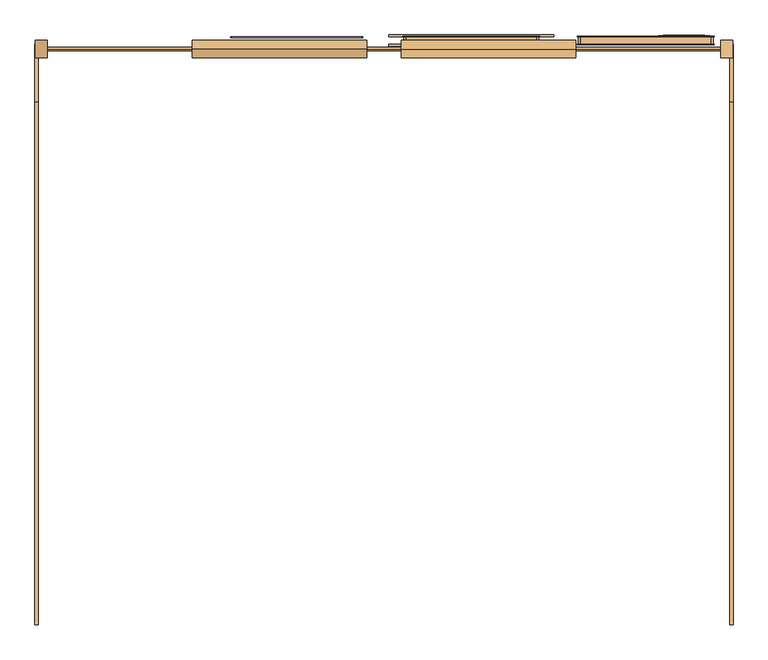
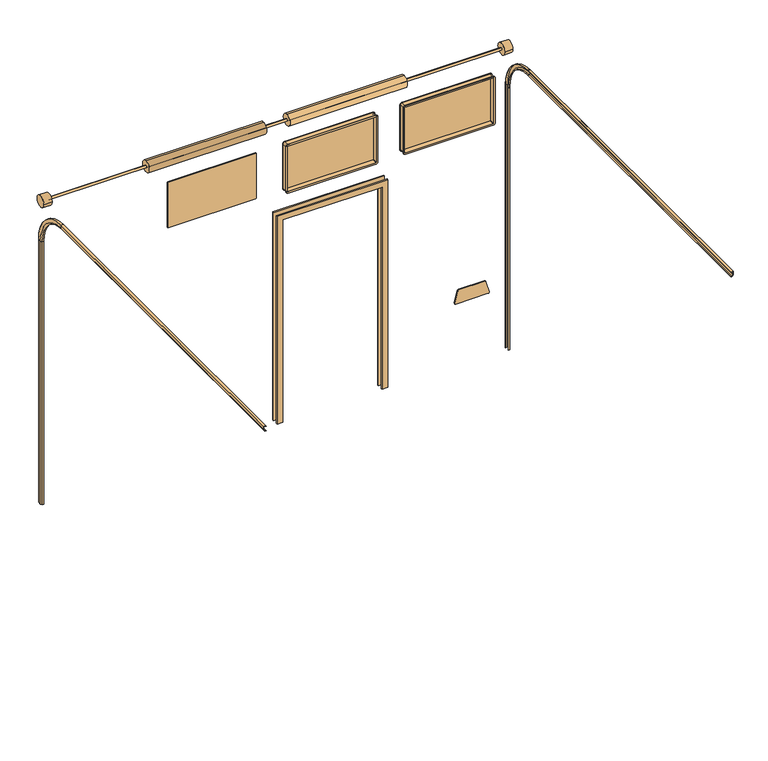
"""IFC4 building model written with IfcOpenShell, lengths in millimetres: door geometry, Vrata Nassau 9000F : Vrata Nassau 9000F."""

from ifc_helpers import new_model, si_unit, point, frame, frame_2d, origin, origin_with_axes, place, context, project, spatial, polyline, circle_curve, trimmed, segment, composite_curve, outline, extrude, source, transform, mapped, element, save
from ifc_brep_helpers import plane_surface, cylinder_surface, revolved_surface, advanced_brep


def door_eaf78109(model_context):
    return source(origin(), model_context, "Body", "SolidModel", [
        extrude(outline(polyline([(1875.0, 972.5), (1875.0, 27.5), (0.0, 27.5), (0.0, 77.5), (1825.0, 77.5), (1825.0, 922.5), (0.0, 922.5), (0.0, 972.5), (1875.0, 972.5)])), frame((0.0, -225.5, 0.0), z_axis=(0.0, 1.0, 0.0), x_axis=(0.0, 0.0, 1.0)), (0.0, 0.0, 1.0), 10.0),
        extrude(outline(polyline([(0.0, 972.5), (1875.0, 972.5), (1875.0, 27.5), (0.0, 27.5), (0.0, 77.5), (1825.0, 77.5), (1825.0, 922.5), (0.0, 922.5), (0.0, 972.5)])), frame((0.0, -279.5, 0.0), z_axis=(0.0, 1.0, 0.0), x_axis=(0.0, 0.0, 1.0)), (0.0, 0.0, 1.0), 10.0),
        extrude(outline(composite_curve([segment(polyline([(617.5881905, 1600.1679147), (517.5881905, 1573.3729955)]), True, "CONTINUOUS"), segment(trimmed(circle_curve(frame_2d((515.0, 1583.0322537)), 10.0), [point((517.5881905, 1573.3729955))], [point((505.0, 1583.0322537))], False, "CARTESIAN"), True, "CONTINUOUS"), segment(polyline([(505.0, 1583.0322537), (505.0, 1856.9677463)]), True, "CONTINUOUS"), segment(trimmed(circle_curve(frame_2d((515.0, 1856.9677463)), 10.0), [point((505.0, 1856.9677463))], [point((517.5881905, 1866.6270045))], False, "CARTESIAN"), True, "CONTINUOUS"), segment(polyline([(517.5881905, 1866.6270045), (617.5881905, 1839.8320853)]), True, "CONTINUOUS"), segment(trimmed(circle_curve(frame_2d((615.0, 1830.172827)), 10.0), [point((617.5881905, 1839.8320853))], [point((625.0, 1830.172827))], False, "CARTESIAN"), True, "CONTINUOUS"), segment(polyline([(625.0, 1830.172827), (625.0, 1609.827173)]), True, "CONTINUOUS"), segment(trimmed(circle_curve(frame_2d((615.0, 1609.827173)), 10.0), [point((625.0, 1609.827173))], [point((617.5881905, 1600.1679147))], False, "CARTESIAN"), True, "CONTINUOUS")], self_intersect=False)), frame((0.0, -225.5, 0.0), z_axis=(0.0, 1.0, 0.0), x_axis=(0.0, 0.0, 1.0)), (0.0, 0.0, 1.0), 7.0),
        extrude(outline(composite_curve([segment(trimmed(circle_curve(frame_2d((-297.5, 2730.0)), 50.0), [point((-297.5, 2680.0))], [point((-297.5, 2780.0))], False, "CARTESIAN"), True, "CONTINUOUS"), segment(trimmed(circle_curve(frame_2d((-297.5, 2730.0)), 50.0), [point((-297.5, 2780.0))], [point((-297.5, 2680.0))], False, "CARTESIAN"), True, "CONTINUOUS")], self_intersect=False)), frame((100.0, 0.0, 0.0), z_axis=(1.0, 0.0, 0.0), x_axis=(0.0, 1.0, 0.0)), (0.0, 0.0, 1.0), 1000.0),
        extrude(outline(composite_curve([segment(trimmed(circle_curve(frame_2d((-297.5, 2730.0)), 50.0), [point((-297.5, 2680.0))], [point((-297.5, 2780.0))], False, "CARTESIAN"), True, "CONTINUOUS"), segment(trimmed(circle_curve(frame_2d((-297.5, 2730.0)), 50.0), [point((-297.5, 2780.0))], [point((-297.5, 2680.0))], False, "CARTESIAN"), True, "CONTINUOUS")], self_intersect=False)), frame((-1100.0, 0.0, 0.0), z_axis=(1.0, 0.0, 0.0), x_axis=(0.0, 1.0, 0.0)), (0.0, 0.0, 1.0), 1000.0),
        extrude(outline(composite_curve([segment(trimmed(circle_curve(frame_2d((-297.5, 2730.0)), 50.0), [point((-347.5, 2730.0))], [point((-247.5, 2730.0))], False, "CARTESIAN"), True, "CONTINUOUS"), segment(trimmed(circle_curve(frame_2d((-297.5, 2730.0)), 50.0), [point((-247.5, 2730.0))], [point((-347.5, 2730.0))], False, "CARTESIAN"), True, "CONTINUOUS")], self_intersect=False)), frame((1930.0, 0.0, 0.0), z_axis=(1.0, 0.0, 0.0), x_axis=(0.0, 1.0, 0.0)), (0.0, 0.0, 1.0), 70.0),
        extrude(outline(composite_curve([segment(trimmed(circle_curve(frame_2d((-297.5, 2730.0)), 50.0), [point((-347.5, 2730.0))], [point((-247.5, 2730.0))], False, "CARTESIAN"), True, "CONTINUOUS"), segment(trimmed(circle_curve(frame_2d((-297.5, 2730.0)), 50.0), [point((-247.5, 2730.0))], [point((-347.5, 2730.0))], False, "CARTESIAN"), True, "CONTINUOUS")], self_intersect=False)), frame((-2000.0, 0.0, 0.0), z_axis=(1.0, 0.0, 0.0), x_axis=(0.0, 1.0, 0.0)), (0.0, 0.0, 1.0), 70.0),
        extrude(outline(composite_curve([segment(trimmed(circle_curve(frame_2d((-297.5, 2730.0)), 10.0), [point((-297.5, 2720.0))], [point((-297.5, 2740.0))], False, "CARTESIAN"), True, "CONTINUOUS"), segment(trimmed(circle_curve(frame_2d((-297.5, 2730.0)), 10.0), [point((-297.5, 2740.0))], [point((-297.5, 2720.0))], False, "CARTESIAN"), True, "CONTINUOUS")], self_intersect=False)), frame((-1930.0, 0.0, 0.0), z_axis=(1.0, 0.0, 0.0), x_axis=(0.0, 1.0, 0.0)), (0.0, 0.0, 1.0), 3860.0),
        advanced_brep(
        [(2001.0, -269.5, 2370.0), (2001.0, -297.7679492, 2370.0), (1993.0773503, -311.4903811, 2370.0), (1981.0, -311.4903811, 2370.0), (1981.0, -310.4903811, 2370.0), (1992.5, -310.4903811, 2370.0), (2000.0, -297.5, 2370.0), (2000.0, -270.5, 2370.0), (1981.0, -270.5, 2370.0), (1981.0, -269.5, 2370.0), (1981.0, -597.5, 2698.0), (2001.0, -597.5, 2698.0), (1981.0, -597.5, 2697.0), (2000.0, -597.5, 2697.0), (2000.0, -597.5, 2670.0), (1992.5, -597.5, 2657.0096189), (1981.0, -597.5, 2657.0096189), (1981.0, -597.5, 2656.0096189), (1993.0773503, -597.5, 2656.0096189), (2001.0, -597.5, 2669.7320508)],
        [
            (0, 1),
            (1, 2),
            (2, 3),
            (3, 4),
            (4, 5),
            (5, 6),
            (6, 7),
            (7, 8),
            (8, 9),
            (9, 0),
            (10, 11),
            (11, 0, circle_curve(frame((2001.0, -597.5, 2370.0), z_axis=(-1.0, 0.0, 0.0), x_axis=(0.0, 0.0, 1.0)), 328.0)),
            (9, 10, circle_curve(frame((1981.0, -597.5, 2370.0), z_axis=(1.0, 0.0, 0.0), x_axis=(0.0, 0.0, 1.0)), 328.0)),
            (12, 10),
            (8, 12, circle_curve(frame((1981.0, -597.5, 2370.0), z_axis=(1.0, 0.0, 0.0), x_axis=(0.0, 0.0, 1.0)), 327.0)),
            (13, 12),
            (7, 13, circle_curve(frame((2000.0, -597.5, 2370.0), z_axis=(1.0, 0.0, 0.0), x_axis=(0.0, 0.0, 1.0)), 327.0)),
            (14, 13),
            (6, 14, circle_curve(frame((2000.0, -597.5, 2370.0), z_axis=(1.0, 0.0, 0.0), x_axis=(0.0, 0.0, 1.0)), 300.0)),
            (15, 14),
            (5, 15, circle_curve(frame((1992.5, -597.5, 2370.0), z_axis=(1.0, 0.0, 0.0), x_axis=(0.0, 0.0, 1.0)), 287.0096189)),
            (16, 15),
            (4, 16, circle_curve(frame((1981.0, -597.5, 2370.0), z_axis=(1.0, 0.0, 0.0), x_axis=(0.0, 0.0, 1.0)), 287.0096189)),
            (17, 16),
            (3, 17, circle_curve(frame((1981.0, -597.5, 2370.0), z_axis=(1.0, 0.0, 0.0), x_axis=(0.0, 0.0, 1.0)), 286.0096189)),
            (18, 17),
            (2, 18, circle_curve(frame((1993.0773503, -597.5, 2370.0), z_axis=(1.0, 0.0, 0.0), x_axis=(0.0, 0.0, 1.0)), 286.0096189)),
            (19, 18),
            (1, 19, circle_curve(frame((2001.0, -597.5, 2370.0), z_axis=(1.0, 0.0, 0.0), x_axis=(0.0, 0.0, 1.0)), 299.7320508)),
            (11, 19),
        ],
        [
            plane_surface(frame((2000.0, -297.5, 2370.0), z_axis=(0.0, 0.0, -1.0), x_axis=(-1.0, 0.0, 0.0))),
            cylinder_surface(frame((2000.0, -597.5, 2370.0), z_axis=(-1.0, 0.0, 0.0), x_axis=(0.0, 0.0, 1.0)), 328.0),
            plane_surface(frame((1981.0, -597.5, 2370.0), z_axis=(-1.0, 0.0, 0.0), x_axis=(0.0, 0.0, 1.0))),
            revolved_surface(polyline([(1981.0, -597.5, 2697.0), (2000.0, -597.5, 2697.0)]), (2000.0, -597.5, 2370.0), (-1.0, 0.0, 0.0)),
            plane_surface(frame((2000.0, -597.5, 2370.0), z_axis=(-1.0, 0.0, 0.0), x_axis=(0.0, 0.0, 1.0))),
            revolved_surface(polyline([(2000.0, -597.5, 2670.0), (1992.5, -597.5, 2657.0096189)]), (2000.0, -597.5, 2370.0), (-1.0, 0.0, 0.0)),
            cylinder_surface(frame((2000.0, -597.5, 2370.0), z_axis=(-1.0, 0.0, 0.0), x_axis=(0.0, 0.0, 1.0)), 287.0096189),
            revolved_surface(polyline([(1981.0, -597.5, 2656.0096189), (1993.0773503, -597.5, 2656.0096189)]), (2000.0, -597.5, 2370.0), (-1.0, 0.0, 0.0)),
            revolved_surface(polyline([(1993.0773503, -597.5, 2656.0096189), (2001.0, -597.5, 2669.7320508)]), (2000.0, -597.5, 2370.0), (-1.0, 0.0, 0.0)),
            plane_surface(frame((2001.0, -597.5, 2370.0), z_axis=(1.0, 0.0, 0.0), x_axis=(0.0, 0.0, 1.0))),
            plane_surface(frame((2000.0, -597.5, 2670.0), z_axis=(0.0, -1.0, 0.0), x_axis=(-1.0, 0.0, 0.0))),
        ],
        [
            (0, [[1, 2, 3, 4, 5, 6, 7, 8, 9, 10]]),
            (1, [[11, 12, -10, 13]]),
            (2, [[14, -13, -9, 15]]),
            (3, [[16, -15, -8, 17]]),
            (4, [[18, -17, -7, 19]]),
            (5, [[20, -19, -6, 21]]),
            (6, [[22, -21, -5, 23]]),
            (2, [[24, -23, -4, 25]]),
            (7, [[26, -25, -3, 27]]),
            (8, [[28, -27, -2, 29]]),
            (9, [[30, -29, -1, -12]]),
            (10, [[-11, -14, -16, -18, -20, -22, -24, -26, -28, -30]]),
        ],
    ),
        advanced_brep(
        [(-2001.0, -269.5, 2370.0), (-1981.0, -269.5, 2370.0), (-1981.0, -270.5, 2370.0), (-2000.0, -270.5, 2370.0), (-2000.0, -297.5, 2370.0), (-1992.5, -310.4903811, 2370.0), (-1981.0, -310.4903811, 2370.0), (-1981.0, -311.4903811, 2370.0), (-1993.0773503, -311.4903811, 2370.0), (-2001.0, -297.7679492, 2370.0), (-2001.0, -597.5, 2669.7320508), (-2001.0, -597.5, 2698.0), (-1981.0, -597.5, 2698.0), (-1981.0, -597.5, 2697.0), (-2000.0, -597.5, 2697.0), (-2000.0, -597.5, 2670.0), (-1992.5, -597.5, 2657.0096189), (-1981.0, -597.5, 2657.0096189), (-1981.0, -597.5, 2656.0096189), (-1993.0773503, -597.5, 2656.0096189)],
        [
            (0, 1),
            (1, 2),
            (2, 3),
            (3, 4),
            (4, 5),
            (5, 6),
            (6, 7),
            (7, 8),
            (8, 9),
            (9, 0),
            (10, 11),
            (11, 0, circle_curve(frame((-2001.0, -597.5, 2370.0), z_axis=(-1.0, 0.0, 0.0), x_axis=(0.0, 0.0, 1.0)), 328.0)),
            (9, 10, circle_curve(frame((-2001.0, -597.5, 2370.0), z_axis=(1.0, 0.0, 0.0), x_axis=(0.0, 0.0, 1.0)), 299.7320508)),
            (11, 12),
            (12, 1, circle_curve(frame((-1981.0, -597.5, 2370.0), z_axis=(-1.0, 0.0, 0.0), x_axis=(0.0, 0.0, 1.0)), 328.0)),
            (12, 13),
            (13, 2, circle_curve(frame((-1981.0, -597.5, 2370.0), z_axis=(-1.0, 0.0, 0.0), x_axis=(0.0, 0.0, 1.0)), 327.0)),
            (13, 14),
            (14, 3, circle_curve(frame((-2000.0, -597.5, 2370.0), z_axis=(-1.0, 0.0, 0.0), x_axis=(0.0, 0.0, 1.0)), 327.0)),
            (14, 15),
            (15, 4, circle_curve(frame((-2000.0, -597.5, 2370.0), z_axis=(-1.0, 0.0, 0.0), x_axis=(0.0, 0.0, 1.0)), 300.0)),
            (15, 16),
            (16, 5, circle_curve(frame((-1992.5, -597.5, 2370.0), z_axis=(-1.0, 0.0, 0.0), x_axis=(0.0, 0.0, 1.0)), 287.0096189)),
            (16, 17),
            (17, 6, circle_curve(frame((-1981.0, -597.5, 2370.0), z_axis=(-1.0, 0.0, 0.0), x_axis=(0.0, 0.0, 1.0)), 287.0096189)),
            (17, 18),
            (18, 7, circle_curve(frame((-1981.0, -597.5, 2370.0), z_axis=(-1.0, 0.0, 0.0), x_axis=(0.0, 0.0, 1.0)), 286.0096189)),
            (19, 10),
            (8, 19, circle_curve(frame((-1993.0773503, -597.5, 2370.0), z_axis=(1.0, 0.0, 0.0), x_axis=(0.0, 0.0, 1.0)), 286.0096189)),
            (18, 19),
        ],
        [
            plane_surface(frame((-2000.0, -297.5, 2370.0), z_axis=(0.0, 0.0, -1.0), x_axis=(1.0, 0.0, 0.0))),
            plane_surface(frame((-2001.0, -597.5, 2370.0), z_axis=(-1.0, 0.0, 0.0), x_axis=(0.0, 0.0, 1.0))),
            cylinder_surface(frame((-2000.0, -597.5, 2370.0), z_axis=(-1.0, 0.0, 0.0), x_axis=(0.0, 0.0, 1.0)), 328.0),
            plane_surface(frame((-1981.0, -597.5, 2370.0), z_axis=(1.0, 0.0, 0.0), x_axis=(0.0, 0.0, 1.0))),
            revolved_surface(polyline([(-2000.0, -597.5, 2697.0), (-1981.0, -597.5, 2697.0)]), (-2000.0, -597.5, 2370.0), (-1.0, 0.0, 0.0)),
            plane_surface(frame((-2000.0, -597.5, 2370.0), z_axis=(1.0, 0.0, 0.0), x_axis=(0.0, 0.0, 1.0))),
            revolved_surface(polyline([(-1992.5, -597.5, 2657.0096189), (-2000.0, -597.5, 2670.0)]), (-2000.0, -597.5, 2370.0), (-1.0, 0.0, 0.0)),
            cylinder_surface(frame((-2000.0, -597.5, 2370.0), z_axis=(-1.0, 0.0, 0.0), x_axis=(0.0, 0.0, 1.0)), 287.0096189),
            revolved_surface(polyline([(-2001.0, -597.5, 2669.7320508), (-1993.0773503, -597.5, 2656.0096189)]), (-2000.0, -597.5, 2370.0), (-1.0, 0.0, 0.0)),
            revolved_surface(polyline([(-1993.0773503, -597.5, 2656.0096189), (-1981.0, -597.5, 2656.0096189)]), (-2000.0, -597.5, 2370.0), (-1.0, 0.0, 0.0)),
            plane_surface(frame((-2000.0, -597.5, 2670.0), z_axis=(0.0, -1.0, 0.0), x_axis=(1.0, 0.0, 0.0))),
        ],
        [
            (0, [[1, 2, 3, 4, 5, 6, 7, 8, 9, 10]]),
            (1, [[11, 12, -10, 13]]),
            (2, [[14, 15, -1, -12]]),
            (3, [[16, 17, -2, -15]]),
            (4, [[18, 19, -3, -17]]),
            (5, [[20, 21, -4, -19]]),
            (6, [[22, 23, -5, -21]]),
            (7, [[24, 25, -6, -23]]),
            (3, [[26, 27, -7, -25]]),
            (8, [[28, -13, -9, 29]]),
            (9, [[30, -29, -8, -27]]),
            (10, [[-11, -28, -30, -26, -24, -22, -20, -18, -16, -14]]),
        ],
    ),
        extrude(outline(polyline([(2698.0, 2001.0), (2698.0, 1981.0), (2697.0, 1981.0), (2697.0, 2000.0), (2670.0, 2000.0), (2657.0096189, 1992.5), (2657.0096189, 1981.0), (2656.0096189, 1981.0), (2656.0096189, 1993.0773503), (2669.7320508, 2001.0), (2698.0, 2001.0)])), frame((0.0, -3597.5, 0.0), z_axis=(0.0, 1.0, 0.0), x_axis=(0.0, 0.0, 1.0)), (0.0, 0.0, 1.0), 3000.0),
        extrude(outline(polyline([(2001.0, -269.5), (2001.0, -297.7679492), (1993.0773503, -311.4903811), (1981.0, -311.4903811), (1981.0, -310.4903811), (1992.5, -310.4903811), (2000.0, -297.5), (2000.0, -270.5), (1981.0, -270.5), (1981.0, -269.5), (2001.0, -269.5)])), origin_with_axes(), (0.0, 0.0, 1.0), 2370.0),
        extrude(outline(polyline([(2698.0, -2001.0), (2669.7320508, -2001.0), (2656.0096189, -1993.0773503), (2656.0096189, -1981.0), (2657.0096189, -1981.0), (2657.0096189, -1992.5), (2670.0, -2000.0), (2697.0, -2000.0), (2697.0, -1981.0), (2698.0, -1981.0), (2698.0, -2001.0)])), frame((0.0, -3597.5, 0.0), z_axis=(0.0, 1.0, 0.0), x_axis=(0.0, 0.0, 1.0)), (0.0, 0.0, 1.0), 3000.0),
        extrude(outline(polyline([(-2001.0, -269.5), (-1981.0, -269.5), (-1981.0, -270.5), (-2000.0, -270.5), (-2000.0, -297.5), (-1992.5, -310.4903811), (-1981.0, -310.4903811), (-1981.0, -311.4903811), (-1993.0773503, -311.4903811), (-2001.0, -297.7679492), (-2001.0, -269.5)])), origin_with_axes(), (0.0, 0.0, 1.0), 2370.0),
        extrude(outline(composite_curve([segment(polyline([(2058.0, 1127.5), (2058.0, 1872.5)]), True, "CONTINUOUS"), segment(trimmed(circle_curve(frame_2d((2063.0, 1872.5)), 5.0), [point((2058.0, 1872.5))], [point((2063.0, 1877.5))], False, "CARTESIAN"), True, "CONTINUOUS"), segment(polyline([(2063.0, 1877.5), (2463.0, 1877.5)]), True, "CONTINUOUS"), segment(trimmed(circle_curve(frame_2d((2463.0, 1872.5)), 5.0), [point((2463.0, 1877.5))], [point((2468.0, 1872.5))], False, "CARTESIAN"), True, "CONTINUOUS"), segment(polyline([(2468.0, 1872.5), (2468.0, 1127.5)]), True, "CONTINUOUS"), segment(trimmed(circle_curve(frame_2d((2463.0, 1127.5)), 5.0), [point((2468.0, 1127.5))], [point((2463.0, 1122.5))], False, "CARTESIAN"), True, "CONTINUOUS"), segment(polyline([(2463.0, 1122.5), (2063.0, 1122.5)]), True, "CONTINUOUS"), segment(trimmed(circle_curve(frame_2d((2063.0, 1127.5)), 5.0), [point((2063.0, 1122.5))], [point((2058.0, 1127.5))], False, "CARTESIAN"), True, "CONTINUOUS")], self_intersect=False)), frame((0.0, -230.5, 0.0), z_axis=(0.0, 1.0, 0.0), x_axis=(0.0, 0.0, 1.0)), (0.0, 0.0, 1.0), 5.0),
        advanced_brep(
        [(1112.5, -225.5, 2063.0), (1112.5, -269.5, 2063.0), (1112.5, -269.5, 2463.0), (1112.5, -225.5, 2463.0), (1107.5, -223.5, 2063.0), (1107.5, -225.5, 2063.0), (1107.5, -225.5, 2463.0), (1107.5, -223.5, 2463.0), (1122.5, -271.5, 2063.0), (1122.5, -223.5, 2063.0), (1122.5, -223.5, 2463.0), (1122.5, -271.5, 2463.0), (1107.5, -269.5, 2063.0), (1107.5, -271.5, 2063.0), (1107.5, -271.5, 2463.0), (1107.5, -269.5, 2463.0), (1127.5, -225.5, 2478.0), (1127.5, -269.5, 2478.0), (1872.5, -269.5, 2478.0), (1872.5, -225.5, 2478.0), (1127.5, -223.5, 2483.0), (1127.5, -225.5, 2483.0), (1872.5, -225.5, 2483.0), (1872.5, -223.5, 2483.0), (1127.5, -271.5, 2468.0), (1127.5, -223.5, 2468.0), (1872.5, -223.5, 2468.0), (1872.5, -271.5, 2468.0), (1127.5, -269.5, 2483.0), (1127.5, -271.5, 2483.0), (1872.5, -271.5, 2483.0), (1872.5, -269.5, 2483.0), (1887.5, -225.5, 2463.0), (1887.5, -269.5, 2463.0), (1887.5, -269.5, 2063.0), (1887.5, -225.5, 2063.0), (1892.5, -223.5, 2463.0), (1892.5, -225.5, 2463.0), (1892.5, -225.5, 2063.0), (1892.5, -223.5, 2063.0), (1877.5, -271.5, 2463.0), (1877.5, -223.5, 2463.0), (1877.5, -223.5, 2063.0), (1877.5, -271.5, 2063.0), (1892.5, -269.5, 2463.0), (1892.5, -271.5, 2463.0), (1892.5, -271.5, 2063.0), (1892.5, -269.5, 2063.0), (1872.5, -225.5, 2048.0), (1872.5, -269.5, 2048.0), (1127.5, -269.5, 2048.0), (1127.5, -225.5, 2048.0), (1872.5, -223.5, 2043.0), (1872.5, -225.5, 2043.0), (1127.5, -225.5, 2043.0), (1127.5, -223.5, 2043.0), (1872.5, -271.5, 2058.0), (1872.5, -223.5, 2058.0), (1127.5, -223.5, 2058.0), (1127.5, -271.5, 2058.0), (1872.5, -269.5, 2043.0), (1872.5, -271.5, 2043.0), (1127.5, -271.5, 2043.0), (1127.5, -269.5, 2043.0)],
        [
            (0, 1),
            (1, 2),
            (2, 3),
            (3, 0),
            (4, 5),
            (5, 6),
            (6, 7),
            (7, 4),
            (8, 9),
            (9, 10),
            (10, 11),
            (11, 8),
            (12, 13),
            (13, 14),
            (14, 15),
            (15, 12),
            (16, 17),
            (17, 18),
            (18, 19),
            (19, 16),
            (20, 21),
            (21, 22),
            (22, 23),
            (23, 20),
            (24, 25),
            (25, 26),
            (26, 27),
            (27, 24),
            (28, 29),
            (29, 30),
            (30, 31),
            (31, 28),
            (32, 33),
            (33, 34),
            (34, 35),
            (35, 32),
            (36, 37),
            (37, 38),
            (38, 39),
            (39, 36),
            (40, 41),
            (41, 42),
            (42, 43),
            (43, 40),
            (44, 45),
            (45, 46),
            (46, 47),
            (47, 44),
            (48, 49),
            (49, 50),
            (50, 51),
            (51, 48),
            (52, 53),
            (53, 54),
            (54, 55),
            (55, 52),
            (56, 57),
            (57, 58),
            (58, 59),
            (59, 56),
            (60, 61),
            (61, 62),
            (62, 63),
            (63, 60),
            (0, 51, circle_curve(frame((1127.5, -225.5, 2063.0), z_axis=(0.0, -1.0, 0.0), x_axis=(0.0, 0.0, -1.0)), 15.0)),
            (50, 1, circle_curve(frame((1127.5, -269.5, 2063.0), z_axis=(0.0, 1.0, 0.0), x_axis=(0.0, 0.0, -1.0)), 15.0)),
            (4, 55, circle_curve(frame((1127.5, -223.5, 2063.0), z_axis=(0.0, -1.0, 0.0), x_axis=(0.0, 0.0, -1.0)), 20.0)),
            (54, 5, circle_curve(frame((1127.5, -225.5, 2063.0), z_axis=(0.0, 1.0, 0.0), x_axis=(0.0, 0.0, -1.0)), 20.0)),
            (8, 59, circle_curve(frame((1127.5, -271.5, 2063.0), z_axis=(0.0, -1.0, 0.0), x_axis=(0.0, 0.0, -1.0)), 5.0)),
            (58, 9, circle_curve(frame((1127.5, -223.5, 2063.0), z_axis=(0.0, 1.0, 0.0), x_axis=(0.0, 0.0, -1.0)), 5.0)),
            (12, 63, circle_curve(frame((1127.5, -269.5, 2063.0), z_axis=(0.0, -1.0, 0.0), x_axis=(0.0, 0.0, -1.0)), 20.0)),
            (62, 13, circle_curve(frame((1127.5, -271.5, 2063.0), z_axis=(0.0, 1.0, 0.0), x_axis=(0.0, 0.0, -1.0)), 20.0)),
            (16, 3, circle_curve(frame((1127.5, -225.5, 2463.0), z_axis=(0.0, -1.0, 0.0), x_axis=(-1.0, 0.0, 0.0)), 15.0)),
            (2, 17, circle_curve(frame((1127.5, -269.5, 2463.0), z_axis=(0.0, 1.0, 0.0), x_axis=(-1.0, 0.0, 0.0)), 15.0)),
            (20, 7, circle_curve(frame((1127.5, -223.5, 2463.0), z_axis=(0.0, -1.0, 0.0), x_axis=(-1.0, 0.0, 0.0)), 20.0)),
            (6, 21, circle_curve(frame((1127.5, -225.5, 2463.0), z_axis=(0.0, 1.0, 0.0), x_axis=(-1.0, 0.0, 0.0)), 20.0)),
            (24, 11, circle_curve(frame((1127.5, -271.5, 2463.0), z_axis=(0.0, -1.0, 0.0), x_axis=(-1.0, 0.0, 0.0)), 5.0)),
            (10, 25, circle_curve(frame((1127.5, -223.5, 2463.0), z_axis=(0.0, 1.0, 0.0), x_axis=(-1.0, 0.0, 0.0)), 5.0)),
            (28, 15, circle_curve(frame((1127.5, -269.5, 2463.0), z_axis=(0.0, -1.0, 0.0), x_axis=(-1.0, 0.0, 0.0)), 20.0)),
            (14, 29, circle_curve(frame((1127.5, -271.5, 2463.0), z_axis=(0.0, 1.0, 0.0), x_axis=(-1.0, 0.0, 0.0)), 20.0)),
            (32, 19, circle_curve(frame((1872.5, -225.5, 2463.0), z_axis=(0.0, -1.0, 0.0), x_axis=(0.0, 0.0, 1.0)), 15.0)),
            (18, 33, circle_curve(frame((1872.5, -269.5, 2463.0), z_axis=(0.0, 1.0, 0.0), x_axis=(0.0, 0.0, 1.0)), 15.0)),
            (36, 23, circle_curve(frame((1872.5, -223.5, 2463.0), z_axis=(0.0, -1.0, 0.0), x_axis=(0.0, 0.0, 1.0)), 20.0)),
            (22, 37, circle_curve(frame((1872.5, -225.5, 2463.0), z_axis=(0.0, 1.0, 0.0), x_axis=(0.0, 0.0, 1.0)), 20.0)),
            (40, 27, circle_curve(frame((1872.5, -271.5, 2463.0), z_axis=(0.0, -1.0, 0.0), x_axis=(0.0, 0.0, 1.0)), 5.0)),
            (26, 41, circle_curve(frame((1872.5, -223.5, 2463.0), z_axis=(0.0, 1.0, 0.0), x_axis=(0.0, 0.0, 1.0)), 5.0)),
            (44, 31, circle_curve(frame((1872.5, -269.5, 2463.0), z_axis=(0.0, -1.0, 0.0), x_axis=(0.0, 0.0, 1.0)), 20.0)),
            (30, 45, circle_curve(frame((1872.5, -271.5, 2463.0), z_axis=(0.0, 1.0, 0.0), x_axis=(0.0, 0.0, 1.0)), 20.0)),
            (47, 60, circle_curve(frame((1872.5, -269.5, 2063.0), z_axis=(0.0, 1.0, 0.0), x_axis=(1.0, 0.0, 0.0)), 20.0)),
            (49, 34, circle_curve(frame((1872.5, -269.5, 2063.0), z_axis=(0.0, -1.0, 0.0), x_axis=(1.0, 0.0, 0.0)), 15.0)),
            (48, 35, circle_curve(frame((1872.5, -225.5, 2063.0), z_axis=(0.0, -1.0, 0.0), x_axis=(1.0, 0.0, 0.0)), 15.0)),
            (53, 38, circle_curve(frame((1872.5, -225.5, 2063.0), z_axis=(0.0, -1.0, 0.0), x_axis=(1.0, 0.0, 0.0)), 20.0)),
            (52, 39, circle_curve(frame((1872.5, -223.5, 2063.0), z_axis=(0.0, -1.0, 0.0), x_axis=(1.0, 0.0, 0.0)), 20.0)),
            (57, 42, circle_curve(frame((1872.5, -223.5, 2063.0), z_axis=(0.0, -1.0, 0.0), x_axis=(1.0, 0.0, 0.0)), 5.0)),
            (56, 43, circle_curve(frame((1872.5, -271.5, 2063.0), z_axis=(0.0, -1.0, 0.0), x_axis=(1.0, 0.0, 0.0)), 5.0)),
            (61, 46, circle_curve(frame((1872.5, -271.5, 2063.0), z_axis=(0.0, -1.0, 0.0), x_axis=(1.0, 0.0, 0.0)), 20.0)),
        ],
        [
            plane_surface(frame((1112.5, -269.5, 2063.0), z_axis=(-1.0, 0.0, 0.0), x_axis=(0.0, 0.0, 1.0))),
            plane_surface(frame((1107.5, -225.5, 2063.0), z_axis=(-1.0, 0.0, 0.0), x_axis=(0.0, 0.0, 1.0))),
            plane_surface(frame((1122.5, -223.5, 2063.0), z_axis=(1.0, 0.0, 0.0), x_axis=(0.0, 0.0, 1.0))),
            plane_surface(frame((1107.5, -271.5, 2063.0), z_axis=(-1.0, 0.0, 0.0), x_axis=(0.0, 0.0, 1.0))),
            plane_surface(frame((1127.5, -269.5, 2478.0), z_axis=(0.0, 0.0, 1.0), x_axis=(1.0, 0.0, 0.0))),
            plane_surface(frame((1127.5, -225.5, 2483.0), z_axis=(0.0, 0.0, 1.0), x_axis=(1.0, 0.0, 0.0))),
            plane_surface(frame((1127.5, -223.5, 2468.0), z_axis=(0.0, 0.0, -1.0), x_axis=(1.0, 0.0, 0.0))),
            plane_surface(frame((1127.5, -271.5, 2483.0), z_axis=(0.0, 0.0, 1.0), x_axis=(1.0, 0.0, 0.0))),
            plane_surface(frame((1887.5, -269.5, 2463.0), z_axis=(1.0, 0.0, 0.0), x_axis=(0.0, 0.0, -1.0))),
            plane_surface(frame((1892.5, -225.5, 2463.0), z_axis=(1.0, 0.0, 0.0), x_axis=(0.0, 0.0, -1.0))),
            plane_surface(frame((1877.5, -223.5, 2463.0), z_axis=(-1.0, 0.0, 0.0), x_axis=(0.0, 0.0, -1.0))),
            plane_surface(frame((1892.5, -271.5, 2463.0), z_axis=(1.0, 0.0, 0.0), x_axis=(0.0, 0.0, -1.0))),
            plane_surface(frame((1872.5, -269.5, 2048.0), z_axis=(0.0, 0.0, -1.0), x_axis=(-1.0, 0.0, 0.0))),
            plane_surface(frame((1872.5, -225.5, 2043.0), z_axis=(0.0, 0.0, -1.0), x_axis=(-1.0, 0.0, 0.0))),
            plane_surface(frame((1872.5, -223.5, 2058.0), z_axis=(0.0, 0.0, 1.0), x_axis=(-1.0, 0.0, 0.0))),
            plane_surface(frame((1872.5, -271.5, 2043.0), z_axis=(0.0, 0.0, -1.0), x_axis=(-1.0, 0.0, 0.0))),
            cylinder_surface(frame((1127.5, -225.5, 2063.0), z_axis=(0.0, 1.0, 0.0), x_axis=(0.0, 0.0, -1.0)), 15.0),
            cylinder_surface(frame((1127.5, -225.5, 2063.0), z_axis=(0.0, 1.0, 0.0), x_axis=(0.0, 0.0, -1.0)), 20.0),
            revolved_surface(polyline([(1127.5, -223.5, 2058.0), (1127.5, -271.5, 2058.0)]), (1127.5, -225.5, 2063.0), (0.0, 1.0, 0.0)),
            cylinder_surface(frame((1127.5, -225.5, 2463.0), z_axis=(0.0, 1.0, 0.0), x_axis=(-1.0, 0.0, 0.0)), 15.0),
            cylinder_surface(frame((1127.5, -225.5, 2463.0), z_axis=(0.0, 1.0, 0.0), x_axis=(-1.0, 0.0, 0.0)), 20.0),
            revolved_surface(polyline([(1122.5, -223.5, 2463.0), (1122.5, -271.5, 2463.0)]), (1127.5, -225.5, 2463.0), (0.0, 1.0, 0.0)),
            cylinder_surface(frame((1872.5, -225.5, 2463.0), z_axis=(0.0, 1.0, 0.0), x_axis=(0.0, 0.0, 1.0)), 15.0),
            cylinder_surface(frame((1872.5, -225.5, 2463.0), z_axis=(0.0, 1.0, 0.0), x_axis=(0.0, 0.0, 1.0)), 20.0),
            revolved_surface(polyline([(1872.5, -223.5, 2468.0), (1872.5, -271.5, 2468.0)]), (1872.5, -225.5, 2463.0), (0.0, 1.0, 0.0)),
            plane_surface(frame((1872.5, -269.5, 2063.0), z_axis=(0.0, 1.0, 0.0), x_axis=(1.0, 0.0, 0.0))),
            cylinder_surface(frame((1872.5, -225.5, 2063.0), z_axis=(0.0, 1.0, 0.0), x_axis=(1.0, 0.0, 0.0)), 15.0),
            plane_surface(frame((1872.5, -225.5, 2063.0), z_axis=(0.0, -1.0, 0.0), x_axis=(1.0, 0.0, 0.0))),
            cylinder_surface(frame((1872.5, -225.5, 2063.0), z_axis=(0.0, 1.0, 0.0), x_axis=(1.0, 0.0, 0.0)), 20.0),
            plane_surface(frame((1872.5, -223.5, 2063.0), z_axis=(0.0, 1.0, 0.0), x_axis=(1.0, 0.0, 0.0))),
            revolved_surface(polyline([(1877.5, -223.5, 2063.0), (1877.5, -271.5, 2063.0)]), (1872.5, -225.5, 2063.0), (0.0, 1.0, 0.0)),
            plane_surface(frame((1872.5, -271.5, 2063.0), z_axis=(0.0, -1.0, 0.0), x_axis=(1.0, 0.0, 0.0))),
        ],
        [
            (0, [[1, 2, 3, 4]]),
            (1, [[5, 6, 7, 8]]),
            (2, [[9, 10, 11, 12]]),
            (3, [[13, 14, 15, 16]]),
            (4, [[17, 18, 19, 20]]),
            (5, [[21, 22, 23, 24]]),
            (6, [[25, 26, 27, 28]]),
            (7, [[29, 30, 31, 32]]),
            (8, [[33, 34, 35, 36]]),
            (9, [[37, 38, 39, 40]]),
            (10, [[41, 42, 43, 44]]),
            (11, [[45, 46, 47, 48]]),
            (12, [[49, 50, 51, 52]]),
            (13, [[53, 54, 55, 56]]),
            (14, [[57, 58, 59, 60]]),
            (15, [[61, 62, 63, 64]]),
            (16, [[65, -51, 66, -1]]),
            (17, [[67, -55, 68, -5]]),
            (18, [[69, -59, 70, -9]]),
            (17, [[71, -63, 72, -13]]),
            (19, [[73, -3, 74, -17]]),
            (20, [[75, -7, 76, -21]]),
            (21, [[77, -11, 78, -25]]),
            (20, [[79, -15, 80, -29]]),
            (22, [[81, -19, 82, -33]]),
            (23, [[83, -23, 84, -37]]),
            (24, [[85, -27, 86, -41]]),
            (23, [[87, -31, 88, -45]]),
            (25, [[-32, -87, -48, 89, -64, -71, -16, -79], [90, -34, -82, -18, -74, -2, -66, -50]]),
            (26, [[91, -35, -90, -49]]),
            (27, [[92, -38, -84, -22, -76, -6, -68, -54], [-20, -81, -36, -91, -52, -65, -4, -73]]),
            (28, [[93, -39, -92, -53]]),
            (29, [[-24, -83, -40, -93, -56, -67, -8, -75], [94, -42, -86, -26, -78, -10, -70, -58]]),
            (30, [[95, -43, -94, -57]]),
            (31, [[96, -46, -88, -30, -80, -14, -72, -62], [-28, -85, -44, -95, -60, -69, -12, -77]]),
            (28, [[-89, -47, -96, -61]]),
        ],
    ),
        extrude(outline(composite_curve([segment(polyline([(2058.0, 127.5), (2058.0, 872.5)]), True, "CONTINUOUS"), segment(trimmed(circle_curve(frame_2d((2063.0, 872.5)), 5.0), [point((2058.0, 872.5))], [point((2063.0, 877.5))], False, "CARTESIAN"), True, "CONTINUOUS"), segment(polyline([(2063.0, 877.5), (2463.0, 877.5)]), True, "CONTINUOUS"), segment(trimmed(circle_curve(frame_2d((2463.0, 872.5)), 5.0), [point((2463.0, 877.5))], [point((2468.0, 872.5))], False, "CARTESIAN"), True, "CONTINUOUS"), segment(polyline([(2468.0, 872.5), (2468.0, 127.5)]), True, "CONTINUOUS"), segment(trimmed(circle_curve(frame_2d((2463.0, 127.5)), 5.0), [point((2468.0, 127.5))], [point((2463.0, 122.5))], False, "CARTESIAN"), True, "CONTINUOUS"), segment(polyline([(2463.0, 122.5), (2063.0, 122.5)]), True, "CONTINUOUS"), segment(trimmed(circle_curve(frame_2d((2063.0, 127.5)), 5.0), [point((2063.0, 122.5))], [point((2058.0, 127.5))], False, "CARTESIAN"), True, "CONTINUOUS")], self_intersect=False)), frame((0.0, -230.5, 0.0), z_axis=(0.0, 1.0, 0.0), x_axis=(0.0, 0.0, 1.0)), (0.0, 0.0, 1.0), 5.0),
        advanced_brep(
        [(112.5, -225.5, 2063.0), (112.5, -269.5, 2063.0), (112.5, -269.5, 2463.0), (112.5, -225.5, 2463.0), (107.5, -223.5, 2063.0), (107.5, -225.5, 2063.0), (107.5, -225.5, 2463.0), (107.5, -223.5, 2463.0), (122.5, -271.5, 2063.0), (122.5, -223.5, 2063.0), (122.5, -223.5, 2463.0), (122.5, -271.5, 2463.0), (107.5, -269.5, 2063.0), (107.5, -271.5, 2063.0), (107.5, -271.5, 2463.0), (107.5, -269.5, 2463.0), (127.5, -225.5, 2478.0), (127.5, -269.5, 2478.0), (872.5, -269.5, 2478.0), (872.5, -225.5, 2478.0), (127.5, -223.5, 2483.0), (127.5, -225.5, 2483.0), (872.5, -225.5, 2483.0), (872.5, -223.5, 2483.0), (127.5, -271.5, 2468.0), (127.5, -223.5, 2468.0), (872.5, -223.5, 2468.0), (872.5, -271.5, 2468.0), (127.5, -269.5, 2483.0), (127.5, -271.5, 2483.0), (872.5, -271.5, 2483.0), (872.5, -269.5, 2483.0), (887.5, -225.5, 2463.0), (887.5, -269.5, 2463.0), (887.5, -269.5, 2063.0), (887.5, -225.5, 2063.0), (892.5, -223.5, 2463.0), (892.5, -225.5, 2463.0), (892.5, -225.5, 2063.0), (892.5, -223.5, 2063.0), (877.5, -271.5, 2463.0), (877.5, -223.5, 2463.0), (877.5, -223.5, 2063.0), (877.5, -271.5, 2063.0), (892.5, -269.5, 2463.0), (892.5, -271.5, 2463.0), (892.5, -271.5, 2063.0), (892.5, -269.5, 2063.0), (872.5, -225.5, 2048.0), (872.5, -269.5, 2048.0), (127.5, -269.5, 2048.0), (127.5, -225.5, 2048.0), (872.5, -223.5, 2043.0), (872.5, -225.5, 2043.0), (127.5, -225.5, 2043.0), (127.5, -223.5, 2043.0), (872.5, -271.5, 2058.0), (872.5, -223.5, 2058.0), (127.5, -223.5, 2058.0), (127.5, -271.5, 2058.0), (872.5, -269.5, 2043.0), (872.5, -271.5, 2043.0), (127.5, -271.5, 2043.0), (127.5, -269.5, 2043.0)],
        [
            (0, 1),
            (1, 2),
            (2, 3),
            (3, 0),
            (4, 5),
            (5, 6),
            (6, 7),
            (7, 4),
            (8, 9),
            (9, 10),
            (10, 11),
            (11, 8),
            (12, 13),
            (13, 14),
            (14, 15),
            (15, 12),
            (16, 17),
            (17, 18),
            (18, 19),
            (19, 16),
            (20, 21),
            (21, 22),
            (22, 23),
            (23, 20),
            (24, 25),
            (25, 26),
            (26, 27),
            (27, 24),
            (28, 29),
            (29, 30),
            (30, 31),
            (31, 28),
            (32, 33),
            (33, 34),
            (34, 35),
            (35, 32),
            (36, 37),
            (37, 38),
            (38, 39),
            (39, 36),
            (40, 41),
            (41, 42),
            (42, 43),
            (43, 40),
            (44, 45),
            (45, 46),
            (46, 47),
            (47, 44),
            (48, 49),
            (49, 50),
            (50, 51),
            (51, 48),
            (52, 53),
            (53, 54),
            (54, 55),
            (55, 52),
            (56, 57),
            (57, 58),
            (58, 59),
            (59, 56),
            (60, 61),
            (61, 62),
            (62, 63),
            (63, 60),
            (0, 51, circle_curve(frame((127.5, -225.5, 2063.0), z_axis=(0.0, -1.0, 0.0), x_axis=(0.0, 0.0, -1.0)), 15.0)),
            (50, 1, circle_curve(frame((127.5, -269.5, 2063.0), z_axis=(0.0, 1.0, 0.0), x_axis=(0.0, 0.0, -1.0)), 15.0)),
            (4, 55, circle_curve(frame((127.5, -223.5, 2063.0), z_axis=(0.0, -1.0, 0.0), x_axis=(0.0, 0.0, -1.0)), 20.0)),
            (54, 5, circle_curve(frame((127.5, -225.5, 2063.0), z_axis=(0.0, 1.0, 0.0), x_axis=(0.0, 0.0, -1.0)), 20.0)),
            (8, 59, circle_curve(frame((127.5, -271.5, 2063.0), z_axis=(0.0, -1.0, 0.0), x_axis=(0.0, 0.0, -1.0)), 5.0)),
            (58, 9, circle_curve(frame((127.5, -223.5, 2063.0), z_axis=(0.0, 1.0, 0.0), x_axis=(0.0, 0.0, -1.0)), 5.0)),
            (12, 63, circle_curve(frame((127.5, -269.5, 2063.0), z_axis=(0.0, -1.0, 0.0), x_axis=(0.0, 0.0, -1.0)), 20.0)),
            (62, 13, circle_curve(frame((127.5, -271.5, 2063.0), z_axis=(0.0, 1.0, 0.0), x_axis=(0.0, 0.0, -1.0)), 20.0)),
            (16, 3, circle_curve(frame((127.5, -225.5, 2463.0), z_axis=(0.0, -1.0, 0.0), x_axis=(-1.0, 0.0, 0.0)), 15.0)),
            (2, 17, circle_curve(frame((127.5, -269.5, 2463.0), z_axis=(0.0, 1.0, 0.0), x_axis=(-1.0, 0.0, 0.0)), 15.0)),
            (20, 7, circle_curve(frame((127.5, -223.5, 2463.0), z_axis=(0.0, -1.0, 0.0), x_axis=(-1.0, 0.0, 0.0)), 20.0)),
            (6, 21, circle_curve(frame((127.5, -225.5, 2463.0), z_axis=(0.0, 1.0, 0.0), x_axis=(-1.0, 0.0, 0.0)), 20.0)),
            (24, 11, circle_curve(frame((127.5, -271.5, 2463.0), z_axis=(0.0, -1.0, 0.0), x_axis=(-1.0, 0.0, 0.0)), 5.0)),
            (10, 25, circle_curve(frame((127.5, -223.5, 2463.0), z_axis=(0.0, 1.0, 0.0), x_axis=(-1.0, 0.0, 0.0)), 5.0)),
            (28, 15, circle_curve(frame((127.5, -269.5, 2463.0), z_axis=(0.0, -1.0, 0.0), x_axis=(-1.0, 0.0, 0.0)), 20.0)),
            (14, 29, circle_curve(frame((127.5, -271.5, 2463.0), z_axis=(0.0, 1.0, 0.0), x_axis=(-1.0, 0.0, 0.0)), 20.0)),
            (32, 19, circle_curve(frame((872.5, -225.5, 2463.0), z_axis=(0.0, -1.0, 0.0), x_axis=(0.0, 0.0, 1.0)), 15.0)),
            (18, 33, circle_curve(frame((872.5, -269.5, 2463.0), z_axis=(0.0, 1.0, 0.0), x_axis=(0.0, 0.0, 1.0)), 15.0)),
            (36, 23, circle_curve(frame((872.5, -223.5, 2463.0), z_axis=(0.0, -1.0, 0.0), x_axis=(0.0, 0.0, 1.0)), 20.0)),
            (22, 37, circle_curve(frame((872.5, -225.5, 2463.0), z_axis=(0.0, 1.0, 0.0), x_axis=(0.0, 0.0, 1.0)), 20.0)),
            (40, 27, circle_curve(frame((872.5, -271.5, 2463.0), z_axis=(0.0, -1.0, 0.0), x_axis=(0.0, 0.0, 1.0)), 5.0)),
            (26, 41, circle_curve(frame((872.5, -223.5, 2463.0), z_axis=(0.0, 1.0, 0.0), x_axis=(0.0, 0.0, 1.0)), 5.0)),
            (44, 31, circle_curve(frame((872.5, -269.5, 2463.0), z_axis=(0.0, -1.0, 0.0), x_axis=(0.0, 0.0, 1.0)), 20.0)),
            (30, 45, circle_curve(frame((872.5, -271.5, 2463.0), z_axis=(0.0, 1.0, 0.0), x_axis=(0.0, 0.0, 1.0)), 20.0)),
            (47, 60, circle_curve(frame((872.5, -269.5, 2063.0), z_axis=(0.0, 1.0, 0.0), x_axis=(1.0, 0.0, 0.0)), 20.0)),
            (49, 34, circle_curve(frame((872.5, -269.5, 2063.0), z_axis=(0.0, -1.0, 0.0), x_axis=(1.0, 0.0, 0.0)), 15.0)),
            (48, 35, circle_curve(frame((872.5, -225.5, 2063.0), z_axis=(0.0, -1.0, 0.0), x_axis=(1.0, 0.0, 0.0)), 15.0)),
            (53, 38, circle_curve(frame((872.5, -225.5, 2063.0), z_axis=(0.0, -1.0, 0.0), x_axis=(1.0, 0.0, 0.0)), 20.0)),
            (52, 39, circle_curve(frame((872.5, -223.5, 2063.0), z_axis=(0.0, -1.0, 0.0), x_axis=(1.0, 0.0, 0.0)), 20.0)),
            (57, 42, circle_curve(frame((872.5, -223.5, 2063.0), z_axis=(0.0, -1.0, 0.0), x_axis=(1.0, 0.0, 0.0)), 5.0)),
            (56, 43, circle_curve(frame((872.5, -271.5, 2063.0), z_axis=(0.0, -1.0, 0.0), x_axis=(1.0, 0.0, 0.0)), 5.0)),
            (61, 46, circle_curve(frame((872.5, -271.5, 2063.0), z_axis=(0.0, -1.0, 0.0), x_axis=(1.0, 0.0, 0.0)), 20.0)),
        ],
        [
            plane_surface(frame((112.5, -269.5, 2063.0), z_axis=(-1.0, 0.0, 0.0), x_axis=(0.0, 0.0, 1.0))),
            plane_surface(frame((107.5, -225.5, 2063.0), z_axis=(-1.0, 0.0, 0.0), x_axis=(0.0, 0.0, 1.0))),
            plane_surface(frame((122.5, -223.5, 2063.0), z_axis=(1.0, 0.0, 0.0), x_axis=(0.0, 0.0, 1.0))),
            plane_surface(frame((107.5, -271.5, 2063.0), z_axis=(-1.0, 0.0, 0.0), x_axis=(0.0, 0.0, 1.0))),
            plane_surface(frame((127.5, -269.5, 2478.0), z_axis=(0.0, 0.0, 1.0), x_axis=(1.0, 0.0, 0.0))),
            plane_surface(frame((127.5, -225.5, 2483.0), z_axis=(0.0, 0.0, 1.0), x_axis=(1.0, 0.0, 0.0))),
            plane_surface(frame((127.5, -223.5, 2468.0), z_axis=(0.0, 0.0, -1.0), x_axis=(1.0, 0.0, 0.0))),
            plane_surface(frame((127.5, -271.5, 2483.0), z_axis=(0.0, 0.0, 1.0), x_axis=(1.0, 0.0, 0.0))),
            plane_surface(frame((887.5, -269.5, 2463.0), z_axis=(1.0, 0.0, 0.0), x_axis=(0.0, 0.0, -1.0))),
            plane_surface(frame((892.5, -225.5, 2463.0), z_axis=(1.0, 0.0, 0.0), x_axis=(0.0, 0.0, -1.0))),
            plane_surface(frame((877.5, -223.5, 2463.0), z_axis=(-1.0, 0.0, 0.0), x_axis=(0.0, 0.0, -1.0))),
            plane_surface(frame((892.5, -271.5, 2463.0), z_axis=(1.0, 0.0, 0.0), x_axis=(0.0, 0.0, -1.0))),
            plane_surface(frame((872.5, -269.5, 2048.0), z_axis=(0.0, 0.0, -1.0), x_axis=(-1.0, 0.0, 0.0))),
            plane_surface(frame((872.5, -225.5, 2043.0), z_axis=(0.0, 0.0, -1.0), x_axis=(-1.0, 0.0, 0.0))),
            plane_surface(frame((872.5, -223.5, 2058.0), z_axis=(0.0, 0.0, 1.0), x_axis=(-1.0, 0.0, 0.0))),
            plane_surface(frame((872.5, -271.5, 2043.0), z_axis=(0.0, 0.0, -1.0), x_axis=(-1.0, 0.0, 0.0))),
            cylinder_surface(frame((127.5, -225.5, 2063.0), z_axis=(0.0, 1.0, 0.0), x_axis=(0.0, 0.0, -1.0)), 15.0),
            cylinder_surface(frame((127.5, -225.5, 2063.0), z_axis=(0.0, 1.0, 0.0), x_axis=(0.0, 0.0, -1.0)), 20.0),
            revolved_surface(polyline([(127.5, -223.5, 2058.0), (127.5, -271.5, 2058.0)]), (127.5, -225.5, 2063.0), (0.0, 1.0, 0.0)),
            cylinder_surface(frame((127.5, -225.5, 2463.0), z_axis=(0.0, 1.0, 0.0), x_axis=(-1.0, 0.0, 0.0)), 15.0),
            cylinder_surface(frame((127.5, -225.5, 2463.0), z_axis=(0.0, 1.0, 0.0), x_axis=(-1.0, 0.0, 0.0)), 20.0),
            revolved_surface(polyline([(122.5, -223.5, 2463.0), (122.5, -271.5, 2463.0)]), (127.5, -225.5, 2463.0), (0.0, 1.0, 0.0)),
            cylinder_surface(frame((872.5, -225.5, 2463.0), z_axis=(0.0, 1.0, 0.0), x_axis=(0.0, 0.0, 1.0)), 15.0),
            cylinder_surface(frame((872.5, -225.5, 2463.0), z_axis=(0.0, 1.0, 0.0), x_axis=(0.0, 0.0, 1.0)), 20.0),
            revolved_surface(polyline([(872.5, -223.5, 2468.0), (872.5, -271.5, 2468.0)]), (872.5, -225.5, 2463.0), (0.0, 1.0, 0.0)),
            plane_surface(frame((872.5, -269.5, 2063.0), z_axis=(0.0, 1.0, 0.0), x_axis=(1.0, 0.0, 0.0))),
            cylinder_surface(frame((872.5, -225.5, 2063.0), z_axis=(0.0, 1.0, 0.0), x_axis=(1.0, 0.0, 0.0)), 15.0),
            plane_surface(frame((872.5, -225.5, 2063.0), z_axis=(0.0, -1.0, 0.0), x_axis=(1.0, 0.0, 0.0))),
            cylinder_surface(frame((872.5, -225.5, 2063.0), z_axis=(0.0, 1.0, 0.0), x_axis=(1.0, 0.0, 0.0)), 20.0),
            plane_surface(frame((872.5, -223.5, 2063.0), z_axis=(0.0, 1.0, 0.0), x_axis=(1.0, 0.0, 0.0))),
            revolved_surface(polyline([(877.5, -223.5, 2063.0), (877.5, -271.5, 2063.0)]), (872.5, -225.5, 2063.0), (0.0, 1.0, 0.0)),
            plane_surface(frame((872.5, -271.5, 2063.0), z_axis=(0.0, -1.0, 0.0), x_axis=(1.0, 0.0, 0.0))),
        ],
        [
            (0, [[1, 2, 3, 4]]),
            (1, [[5, 6, 7, 8]]),
            (2, [[9, 10, 11, 12]]),
            (3, [[13, 14, 15, 16]]),
            (4, [[17, 18, 19, 20]]),
            (5, [[21, 22, 23, 24]]),
            (6, [[25, 26, 27, 28]]),
            (7, [[29, 30, 31, 32]]),
            (8, [[33, 34, 35, 36]]),
            (9, [[37, 38, 39, 40]]),
            (10, [[41, 42, 43, 44]]),
            (11, [[45, 46, 47, 48]]),
            (12, [[49, 50, 51, 52]]),
            (13, [[53, 54, 55, 56]]),
            (14, [[57, 58, 59, 60]]),
            (15, [[61, 62, 63, 64]]),
            (16, [[65, -51, 66, -1]]),
            (17, [[67, -55, 68, -5]]),
            (18, [[69, -59, 70, -9]]),
            (17, [[71, -63, 72, -13]]),
            (19, [[73, -3, 74, -17]]),
            (20, [[75, -7, 76, -21]]),
            (21, [[77, -11, 78, -25]]),
            (20, [[79, -15, 80, -29]]),
            (22, [[81, -19, 82, -33]]),
            (23, [[83, -23, 84, -37]]),
            (24, [[85, -27, 86, -41]]),
            (23, [[87, -31, 88, -45]]),
            (25, [[-32, -87, -48, 89, -64, -71, -16, -79], [90, -34, -82, -18, -74, -2, -66, -50]]),
            (26, [[91, -35, -90, -49]]),
            (27, [[92, -38, -84, -22, -76, -6, -68, -54], [-20, -81, -36, -91, -52, -65, -4, -73]]),
            (28, [[93, -39, -92, -53]]),
            (29, [[-24, -83, -40, -93, -56, -67, -8, -75], [94, -42, -86, -26, -78, -10, -70, -58]]),
            (30, [[95, -43, -94, -57]]),
            (31, [[96, -46, -88, -30, -80, -14, -72, -62], [-28, -85, -44, -95, -60, -69, -12, -77]]),
            (28, [[-89, -47, -96, -61]]),
        ],
    ),
        extrude(outline(composite_curve([segment(polyline([(2058.0, -872.5), (2058.0, -127.5)]), True, "CONTINUOUS"), segment(trimmed(circle_curve(frame_2d((2063.0, -127.5)), 5.0), [point((2058.0, -127.5))], [point((2063.0, -122.5))], False, "CARTESIAN"), True, "CONTINUOUS"), segment(polyline([(2063.0, -122.5), (2463.0, -122.5)]), True, "CONTINUOUS"), segment(trimmed(circle_curve(frame_2d((2463.0, -127.5)), 5.0), [point((2463.0, -122.5))], [point((2468.0, -127.5))], False, "CARTESIAN"), True, "CONTINUOUS"), segment(polyline([(2468.0, -127.5), (2468.0, -872.5)]), True, "CONTINUOUS"), segment(trimmed(circle_curve(frame_2d((2463.0, -872.5)), 5.0), [point((2468.0, -872.5))], [point((2463.0, -877.5))], False, "CARTESIAN"), True, "CONTINUOUS"), segment(polyline([(2463.0, -877.5), (2063.0, -877.5)]), True, "CONTINUOUS"), segment(trimmed(circle_curve(frame_2d((2063.0, -872.5)), 5.0), [point((2063.0, -877.5))], [point((2058.0, -872.5))], False, "CARTESIAN"), True, "CONTINUOUS")], self_intersect=False)), frame((0.0, -230.5, 0.0), z_axis=(0.0, 1.0, 0.0), x_axis=(0.0, 0.0, 1.0)), (0.0, 0.0, 1.0), 5.0),
    ])


if __name__ == "__main__":
    model = new_model("IFC4")
    model_context = context("Model", 3, world=origin())
    ifc_project = project(units=[si_unit("LENGTHUNIT", "METRE", prefix="MILLI")], contexts=[model_context])
    site = spatial("IfcSite", under=ifc_project)
    building = spatial("IfcBuilding", under=site)
    placement = place(None, origin())
    door_shape = door_eaf78109(model_context)
    element("IfcDoor", 1, ObjectType="Vrata Nassau 9000F : Vrata Nassau 9000F", at=placement, inside=building, context=model_context, shape_type="MappedRepresentation", body=[
        mapped(door_shape, transform((0.0, 0.0, 0.0), x_axis=(1.0, 0.0, 0.0), y_axis=(0.0, 1.0, 0.0), z_axis=(0.0, 0.0, 1.0))),
    ])
    save(model, "model.ifc")
